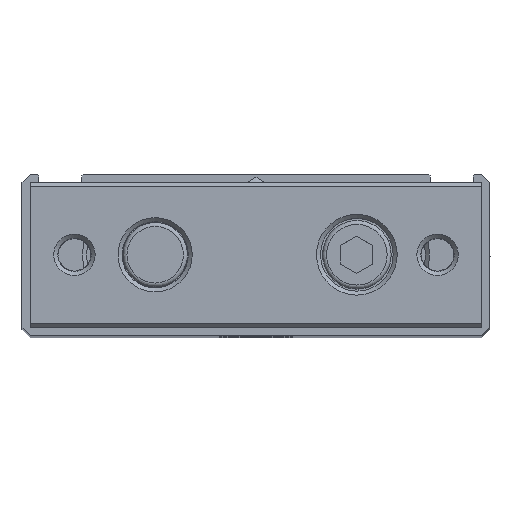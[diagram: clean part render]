
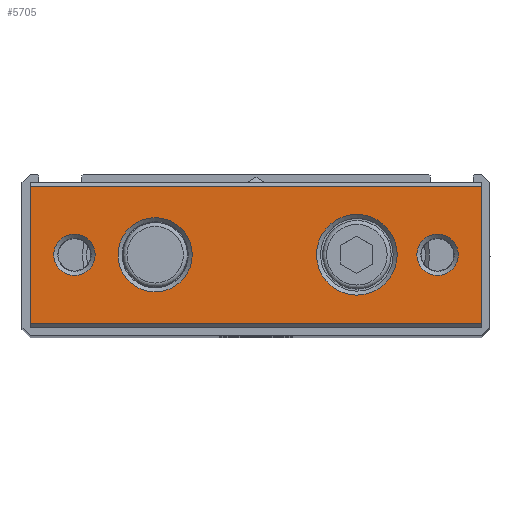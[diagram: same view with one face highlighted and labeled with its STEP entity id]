
A CAD part, top view. The second image highlights one B-rep face of the part: STEP entity #5705.
In plain terms, the highlighted planar face has unit normal (0, 0, 1).
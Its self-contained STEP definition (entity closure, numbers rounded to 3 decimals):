
#3656=CARTESIAN_POINT('',(-28.,-8.5,154.0));
#3657=VERTEX_POINT('',#3656);
#3664=CARTESIAN_POINT('',(-28.,8.5,154.0));
#3665=VERTEX_POINT('',#3664);
#3666=CARTESIAN_POINT('',(-28.,8.5,154.0));
#3667=DIRECTION('',(0.0,-1.0,0.0));
#3668=VECTOR('',#3667,17.0);
#3669=LINE('',#3666,#3668);
#3670=EDGE_CURVE('',#3665,#3657,#3669,.T.);
#3856=CARTESIAN_POINT('',(28.,-8.5,154.0));
#3857=VERTEX_POINT('',#3856);
#3864=CARTESIAN_POINT('',(28.,-8.5,154.0));
#3865=DIRECTION('',(-1.0,0.0,0.0));
#3866=VECTOR('',#3865,56.);
#3867=LINE('',#3864,#3866);
#3868=EDGE_CURVE('',#3857,#3657,#3867,.T.);
#3935=CARTESIAN_POINT('',(28.,8.5,154.0));
#3936=VERTEX_POINT('',#3935);
#3943=CARTESIAN_POINT('',(28.,-8.5,154.0));
#3944=DIRECTION('',(0.0,1.0,0.0));
#3945=VECTOR('',#3944,17.0);
#3946=LINE('',#3943,#3945);
#3947=EDGE_CURVE('',#3857,#3936,#3946,.T.);
#5641=CARTESIAN_POINT('',(17.5,0.,154.0));
#5642=VERTEX_POINT('',#5641);
#5643=CARTESIAN_POINT('',(12.5,0.,154.0));
#5644=DIRECTION('',(0.0,0.0,1.0));
#5645=DIRECTION('',(-1.0,0.0,0.0));
#5646=AXIS2_PLACEMENT_3D('',#5643,#5644,#5645);
#5647=CIRCLE('',#5646,5.0);
#5648=EDGE_CURVE('',#5642,#5642,#5647,.T.);
#5653=CARTESIAN_POINT('',(0.0,-9.,154.0));
#5654=DIRECTION('',(0.0,0.0,1.0));
#5655=DIRECTION('',(1.0,0.0,0.0));
#5656=AXIS2_PLACEMENT_3D('',#5653,#5654,#5655);
#5657=PLANE('',#5656);
#5658=ORIENTED_EDGE('',*,*,#3868,.F.);
#5659=ORIENTED_EDGE('',*,*,#3947,.T.);
#5660=CARTESIAN_POINT('',(-28.,8.5,154.0));
#5661=DIRECTION('',(1.0,0.0,0.0));
#5662=VECTOR('',#5661,56.);
#5663=LINE('',#5660,#5662);
#5664=EDGE_CURVE('',#3665,#3936,#5663,.T.);
#5665=ORIENTED_EDGE('',*,*,#5664,.F.);
#5666=ORIENTED_EDGE('',*,*,#3670,.T.);
#5667=EDGE_LOOP('',(#5658,#5659,#5665,#5666));
#5668=FACE_OUTER_BOUND('',#5667,.T.);
#5669=CARTESIAN_POINT('',(-7.9,0.,154.0));
#5670=VERTEX_POINT('',#5669);
#5671=CARTESIAN_POINT('',(-12.5,0.,154.0));
#5672=DIRECTION('',(0.0,0.0,1.0));
#5673=DIRECTION('',(-1.0,0.0,0.0));
#5674=AXIS2_PLACEMENT_3D('',#5671,#5672,#5673);
#5675=CIRCLE('',#5674,4.6);
#5676=EDGE_CURVE('',#5670,#5670,#5675,.T.);
#5677=ORIENTED_EDGE('',*,*,#5676,.F.);
#5678=EDGE_LOOP('',(#5677));
#5679=FACE_BOUND('',#5678,.T.);
#5680=CARTESIAN_POINT('',(-19.933,0.,154.0));
#5681=VERTEX_POINT('',#5680);
#5682=CARTESIAN_POINT('',(-22.5,0.,154.0));
#5683=DIRECTION('',(0.0,0.0,1.0));
#5684=DIRECTION('',(-1.0,0.0,0.0));
#5685=AXIS2_PLACEMENT_3D('',#5682,#5683,#5684);
#5686=CIRCLE('',#5685,2.567);
#5687=EDGE_CURVE('',#5681,#5681,#5686,.T.);
#5688=ORIENTED_EDGE('',*,*,#5687,.F.);
#5689=EDGE_LOOP('',(#5688));
#5690=FACE_BOUND('',#5689,.T.);
#5691=CARTESIAN_POINT('',(25.067,0.,154.0));
#5692=VERTEX_POINT('',#5691);
#5693=CARTESIAN_POINT('',(22.5,0.,154.0));
#5694=DIRECTION('',(0.0,0.0,1.0));
#5695=DIRECTION('',(-1.0,0.0,0.0));
#5696=AXIS2_PLACEMENT_3D('',#5693,#5694,#5695);
#5697=CIRCLE('',#5696,2.567);
#5698=EDGE_CURVE('',#5692,#5692,#5697,.T.);
#5699=ORIENTED_EDGE('',*,*,#5698,.F.);
#5700=EDGE_LOOP('',(#5699));
#5701=FACE_BOUND('',#5700,.T.);
#5702=ORIENTED_EDGE('',*,*,#5648,.F.);
#5703=EDGE_LOOP('',(#5702));
#5704=FACE_BOUND('',#5703,.T.);
#5705=ADVANCED_FACE('',(#5668,#5679,#5690,#5701,#5704),#5657,.T.);
